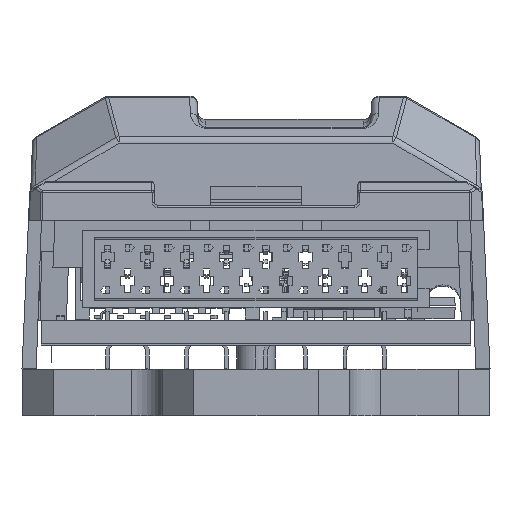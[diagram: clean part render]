
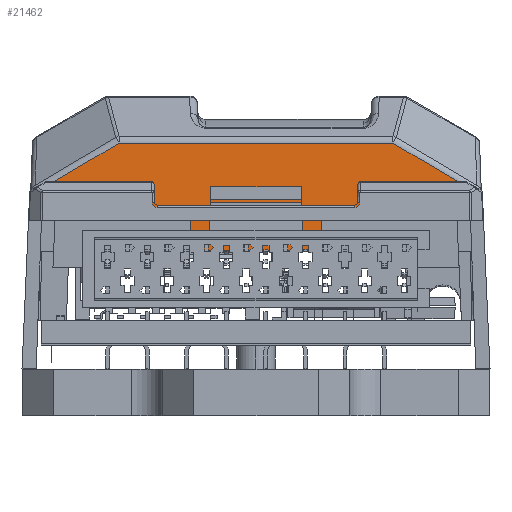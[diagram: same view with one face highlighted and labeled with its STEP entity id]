
A CAD part, left-side view. The second image highlights one B-rep face of the part: STEP entity #21462.
In plain terms, the highlighted planar face has unit normal (-0.999, 0, 0.035).
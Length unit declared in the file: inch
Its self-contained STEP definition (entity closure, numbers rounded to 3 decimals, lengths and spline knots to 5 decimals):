
#2305 = CARTESIAN_POINT ( 'NONE',  ( -1.63831, -0.54974, 0.56903 ) ) ;
#2403 = VERTEX_POINT ( 'NONE', #8362 ) ;
#2459 = EDGE_CURVE ( 'NONE', #2807, #3344, #38506, .T. ) ;
#2807 = VERTEX_POINT ( 'NONE', #5440 ) ;
#2862 = CARTESIAN_POINT ( 'NONE',  ( -1.6437, 0., 0.41459 ) ) ;
#2986 = VERTEX_POINT ( 'NONE', #4326 ) ;
#3344 = VERTEX_POINT ( 'NONE', #29632 ) ;
#3514 = EDGE_CURVE ( 'NONE', #28612, #28580, #16595, .T. ) ;
#3630 = DIRECTION ( 'NONE',  ( 0.018, 0.861, 0.509 ) ) ;
#4326 = CARTESIAN_POINT ( 'NONE',  ( -1.64361, -0.16142, 0.41718 ) ) ;
#4980 = DIRECTION ( 'NONE',  ( 0.035, 0., 0.999 ) ) ;
#5070 = LINE ( 'NONE', #8917, #30266 ) ;
#5138 = LINE ( 'NONE', #38544, #5803 ) ;
#5214 = EDGE_CURVE ( 'NONE', #22835, #2403, #12339, .T. ) ;
#5440 = CARTESIAN_POINT ( 'NONE',  ( -1.63831, 0.54974, 0.56903 ) ) ;
#5803 = VECTOR ( 'NONE', #32401, 39.37008 ) ;
#5908 = VECTOR ( 'NONE', #29415, 39.37008 ) ;
#6120 = VECTOR ( 'NONE', #13845, 39.37008 ) ;
#7153 = ORIENTED_EDGE ( 'NONE', *, *, #2459, .T. ) ;
#7175 = DIRECTION ( 'NONE',  ( 0., 1., 0. ) ) ;
#7519 = DIRECTION ( 'NONE',  ( 0.035, 0., 0.999 ) ) ;
#7698 = ORIENTED_EDGE ( 'NONE', *, *, #37605, .F. ) ;
#7924 = CARTESIAN_POINT ( 'NONE',  ( -1.63405, -0.34346, 0.69097 ) ) ;
#8333 = ORIENTED_EDGE ( 'NONE', *, *, #28303, .T. ) ;
#8362 = CARTESIAN_POINT ( 'NONE',  ( -1.6437, -0.16142, 0.41459 ) ) ;
#8372 = VECTOR ( 'NONE', #13544, 39.37008 ) ;
#8917 = CARTESIAN_POINT ( 'NONE',  ( -1.64361, -0.5748, 0.41718 ) ) ;
#9139 = EDGE_LOOP ( 'NONE', ( #17223, #21733, #30170, #24619, #7153, #32376, #12401, #8333, #7698, #19187 ) ) ;
#9192 = VECTOR ( 'NONE', #31732, 39.37008 ) ;
#9556 = CARTESIAN_POINT ( 'NONE',  ( -1.64361, 0.16142, 0.41718 ) ) ;
#10948 = CARTESIAN_POINT ( 'NONE',  ( -1.6341, 0.34904, 0.6895 ) ) ;
#11269 = CARTESIAN_POINT ( 'NONE',  ( -1.6341, -0.34594, 0.6895 ) ) ;
#11735 = LINE ( 'NONE', #31528, #38379 ) ;
#11884 = CARTESIAN_POINT ( 'NONE',  ( -1.6437, -0.55513, 0.41459 ) ) ;
#12339 = LINE ( 'NONE', #2862, #8372 ) ;
#12401 = ORIENTED_EDGE ( 'NONE', *, *, #16168, .T. ) ;
#12409 = EDGE_CURVE ( 'NONE', #22835, #28612, #13973, .T. ) ;
#13165 = CARTESIAN_POINT ( 'NONE',  ( -1.64233, 0.55376, 0.45396 ) ) ;
#13268 = LINE ( 'NONE', #10948, #13781 ) ;
#13414 = LINE ( 'NONE', #31626, #21575 ) ;
#13544 = DIRECTION ( 'NONE',  ( 0., 1., 0. ) ) ;
#13781 = VECTOR ( 'NONE', #17123, 39.37008 ) ;
#13845 = DIRECTION ( 'NONE',  ( -0.035, 0.035, -0.999 ) ) ;
#13973 = LINE ( 'NONE', #35099, #5908 ) ;
#16063 = CARTESIAN_POINT ( 'NONE',  ( -1.6341, 0.34594, 0.6895 ) ) ;
#16168 = EDGE_CURVE ( 'NONE', #32648, #31475, #13414, .T. ) ;
#16329 = LINE ( 'NONE', #28661, #9192 ) ;
#16494 = VECTOR ( 'NONE', #3630, 39.37008 ) ;
#16595 = LINE ( 'NONE', #7924, #16494 ) ;
#17048 = CARTESIAN_POINT ( 'NONE',  ( -1.6437, -0.5748, 0.41459 ) ) ;
#17123 = DIRECTION ( 'NONE',  ( 0., 1., 0. ) ) ;
#17223 = ORIENTED_EDGE ( 'NONE', *, *, #12409, .T. ) ;
#18662 = DIRECTION ( 'NONE',  ( 0., -1., 0. ) ) ;
#19187 = ORIENTED_EDGE ( 'NONE', *, *, #5214, .F. ) ;
#20755 = EDGE_CURVE ( 'NONE', #27371, #2807, #16329, .T. ) ;
#21462 = ADVANCED_FACE ( 'NONE', ( #25114 ), #29142, .T. ) ;
#21575 = VECTOR ( 'NONE', #7519, 39.37008 ) ;
#21733 = ORIENTED_EDGE ( 'NONE', *, *, #3514, .T. ) ;
#22835 = VERTEX_POINT ( 'NONE', #11884 ) ;
#23162 = DIRECTION ( 'NONE',  ( -0.999, 0., 0.035 ) ) ;
#24619 = ORIENTED_EDGE ( 'NONE', *, *, #20755, .T. ) ;
#25114 = FACE_OUTER_BOUND ( 'NONE', #9139, .T. ) ;
#27371 = VERTEX_POINT ( 'NONE', #16063 ) ;
#28303 = EDGE_CURVE ( 'NONE', #31475, #2986, #5070, .T. ) ;
#28580 = VERTEX_POINT ( 'NONE', #11269 ) ;
#28612 = VERTEX_POINT ( 'NONE', #2305 ) ;
#28661 = CARTESIAN_POINT ( 'NONE',  ( -1.63818, 0.5437, 0.5726 ) ) ;
#29142 = PLANE ( 'NONE',  #36286 ) ;
#29415 = DIRECTION ( 'NONE',  ( 0.035, 0.035, 0.999 ) ) ;
#29632 = CARTESIAN_POINT ( 'NONE',  ( -1.6437, 0.55513, 0.41459 ) ) ;
#30170 = ORIENTED_EDGE ( 'NONE', *, *, #35592, .T. ) ;
#30266 = VECTOR ( 'NONE', #18662, 39.37008 ) ;
#31475 = VERTEX_POINT ( 'NONE', #9556 ) ;
#31528 = CARTESIAN_POINT ( 'NONE',  ( -1.6437, -0.5748, 0.41459 ) ) ;
#31626 = CARTESIAN_POINT ( 'NONE',  ( -1.6437, 0.16142, 0.41459 ) ) ;
#31732 = DIRECTION ( 'NONE',  ( -0.018, 0.861, -0.509 ) ) ;
#32137 = CARTESIAN_POINT ( 'NONE',  ( -1.6437, 0.16142, 0.41459 ) ) ;
#32376 = ORIENTED_EDGE ( 'NONE', *, *, #36568, .F. ) ;
#32401 = DIRECTION ( 'NONE',  ( 0.035, 0., 0.999 ) ) ;
#32648 = VERTEX_POINT ( 'NONE', #32137 ) ;
#35099 = CARTESIAN_POINT ( 'NONE',  ( -1.64372, -0.55515, 0.41391 ) ) ;
#35592 = EDGE_CURVE ( 'NONE', #28580, #27371, #13268, .T. ) ;
#36286 = AXIS2_PLACEMENT_3D ( 'NONE', #17048, #23162, #4980 ) ;
#36568 = EDGE_CURVE ( 'NONE', #32648, #3344, #11735, .T. ) ;
#37605 = EDGE_CURVE ( 'NONE', #2403, #2986, #5138, .T. ) ;
#38379 = VECTOR ( 'NONE', #7175, 39.37008 ) ;
#38506 = LINE ( 'NONE', #13165, #6120 ) ;
#38544 = CARTESIAN_POINT ( 'NONE',  ( -1.6437, -0.16142, 0.41459 ) ) ;
